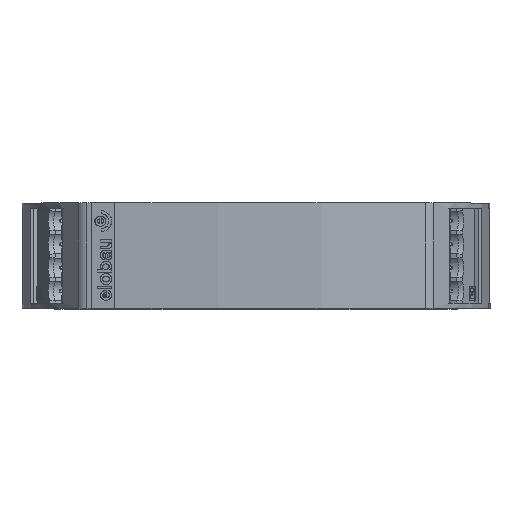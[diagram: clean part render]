
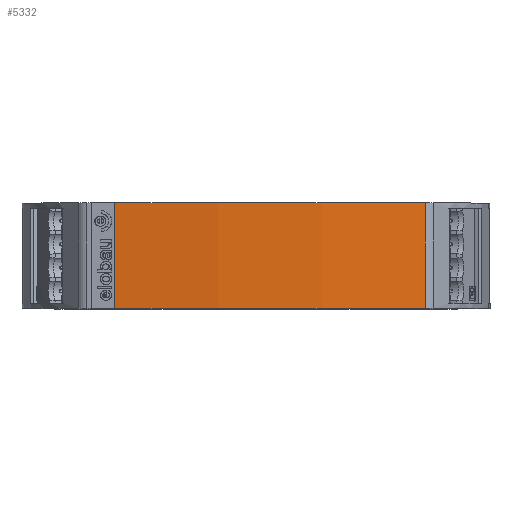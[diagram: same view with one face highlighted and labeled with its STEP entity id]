
A CAD part, top view. The second image highlights one B-rep face of the part: STEP entity #5332.
In plain terms, the highlighted cylindrical face has radius 200 mm (diameter 400 mm), a partial arc.
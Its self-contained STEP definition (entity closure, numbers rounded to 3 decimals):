
#4168=CYLINDRICAL_SURFACE('',#27457,200.);
#5332=ADVANCED_FACE('',(#7274),#4168,.T.);
#7274=FACE_OUTER_BOUND('',#8509,.T.);
#8509=EDGE_LOOP('',(#12907,#12908,#12909,#12910));
#9484=CIRCLE('',#27141,200.);
#9575=CIRCLE('',#27456,200.);
#12907=ORIENTED_EDGE('',*,*,#19700,.T.);
#12908=ORIENTED_EDGE('',*,*,#20455,.F.);
#12909=ORIENTED_EDGE('',*,*,#20456,.T.);
#12910=ORIENTED_EDGE('',*,*,#20457,.T.);
#17221=VERTEX_POINT('',#36588);
#17222=VERTEX_POINT('',#36590);
#17737=VERTEX_POINT('',#38896);
#17738=VERTEX_POINT('',#38898);
#19700=EDGE_CURVE('',#17222,#17221,#9484,.T.);
#20455=EDGE_CURVE('',#17737,#17221,#23276,.T.);
#20456=EDGE_CURVE('',#17737,#17738,#9575,.T.);
#20457=EDGE_CURVE('',#17738,#17222,#23277,.T.);
#23276=LINE('',#38895,#25509);
#23277=LINE('',#38899,#25510);
#25509=VECTOR('',#31309,1.);
#25510=VECTOR('',#31312,1.);
#27141=AXIS2_PLACEMENT_3D('',#36589,#30071,#30072);
#27456=AXIS2_PLACEMENT_3D('',#38897,#31310,#31311);
#27457=AXIS2_PLACEMENT_3D('',#38900,#31313,#31314);
#30071=DIRECTION('',(0.,1.,0.));
#30072=DIRECTION('',(-0.151,0.,0.989));
#31309=DIRECTION('',(0.,-1.,0.));
#31310=DIRECTION('',(0.,-1.,0.));
#31311=DIRECTION('',(0.181,0.,0.984));
#31312=DIRECTION('',(0.,-1.,0.));
#31313=DIRECTION('',(0.,-1.,0.));
#31314=DIRECTION('',(0.181,0.,0.984));
#36588=CARTESIAN_POINT('',(36.121,-11.25,116.711));
#36589=CARTESIAN_POINT('',(0.,-11.25,-80.));
#36590=CARTESIAN_POINT('',(-30.155,-11.25,117.714));
#38895=CARTESIAN_POINT('',(36.121,11.25,116.711));
#38896=CARTESIAN_POINT('',(36.121,11.25,116.711));
#38897=CARTESIAN_POINT('',(0.,11.25,-80.));
#38898=CARTESIAN_POINT('',(-30.155,11.25,117.714));
#38899=CARTESIAN_POINT('',(-30.155,11.25,117.714));
#38900=CARTESIAN_POINT('',(0.,12.7,-80.));
